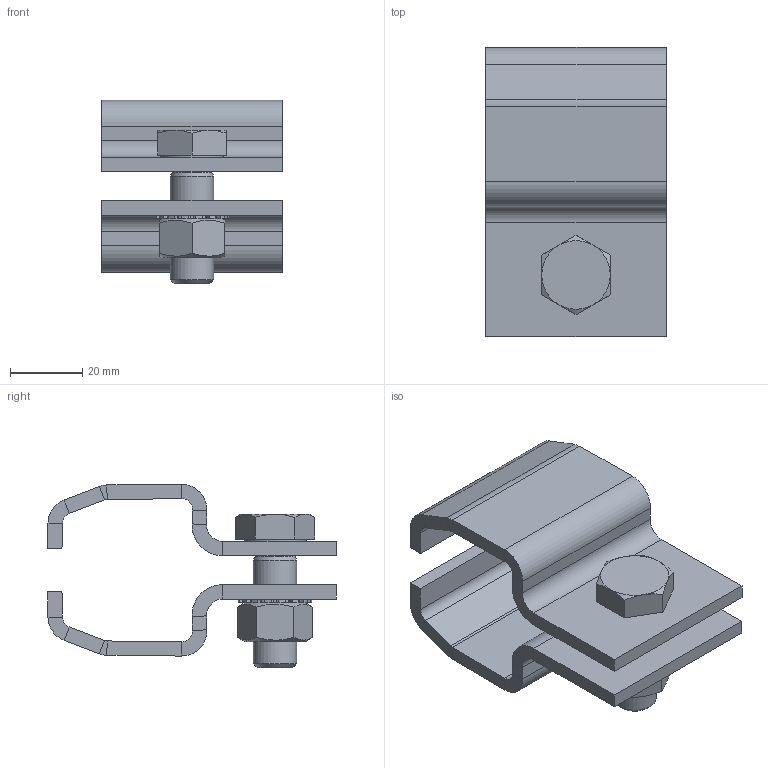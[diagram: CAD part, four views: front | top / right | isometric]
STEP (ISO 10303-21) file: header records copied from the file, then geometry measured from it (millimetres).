
FILE_DESCRIPTION(/* description */ ('Klemme Nr.1'),/* implementation_level */ '2;1');
FILE_NAME(/* name */ 'Q:\sge-ma\Produktmanagement-STB\STB\Workspace\TraceParts\Aufhängeklemme\010336720.stp',/* time_stamp */ '2018-02-21T11:24:50+01:00',/* author */ ('avschreier'),/* organization */ (''),/* preprocessor_version */ 'ST-DEVELOPER v16.1',/* originating_system */ 'Autodesk Inventor 2016',/* authorisation */ '');
FILE_SCHEMA (('CONFIG_CONTROL_DESIGN'));
Length unit declared in the file: millimetre
Products named in the file (5): 000302106; DIN_EN_ISO_4032-M12_en; DIN_6798-A_13_en; DIN_EN_ISO_4017-M12x35_en; 010336720
Assembly tree (5 placements, depth 2):
  010336720
    000302106  x2
    DIN_EN_ISO_4032-M12_en
    DIN_6798-A_13_en
    DIN_EN_ISO_4017-M12x35_en
Bounding box: 50 x 80 x 50.78 mm (x, y, z)
Volume: 47070.9 mm3; surface area: 26226 mm2
Topology: 5 solids, 5 shells, 211 faces, 521 edges, 322 vertices
Faces by surface type: plane 112, cylinder 87, cone 12
Full cylindrical faces by diameter (mm): 10.106 x1, 11.053 x1, 12 x1, 13 x3, 17.2 x1
Entity records: 5269 total; most frequent: CARTESIAN_POINT 938, DIRECTION 936, ORIENTED_EDGE 858, EDGE_CURVE 429, AXIS2_PLACEMENT_3D 349, VERTEX_POINT 279, LINE 238, VECTOR 238
